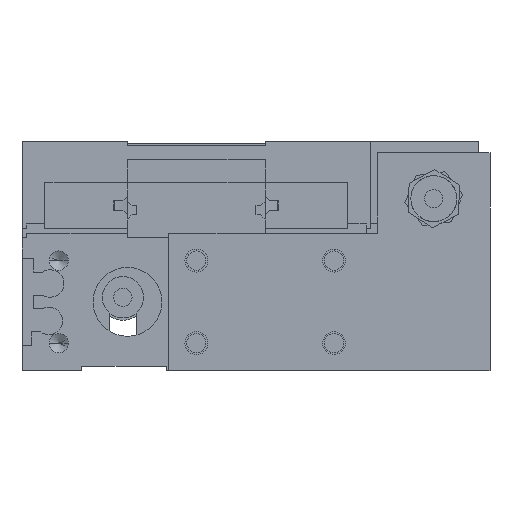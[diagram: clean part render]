
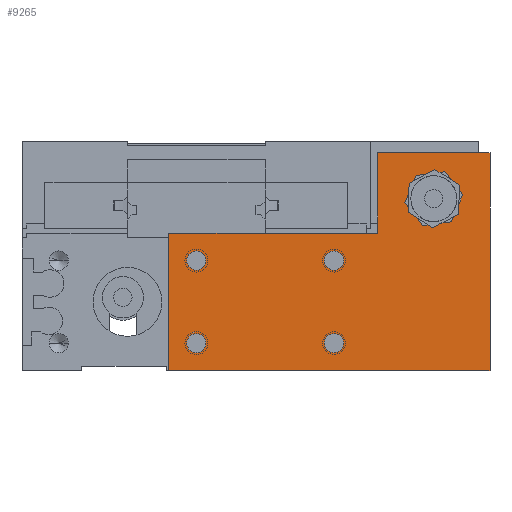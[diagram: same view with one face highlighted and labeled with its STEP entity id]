
A CAD part, front view. The second image highlights one B-rep face of the part: STEP entity #9265.
In plain terms, the highlighted planar face has unit normal (0, -1, 0) as drawn and (0, 0, 1) by its records, which use the part's own axes.
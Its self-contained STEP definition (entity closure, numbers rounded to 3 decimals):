
#9147 = VERTEX_POINT ( 'NONE', #14378 ) ;
#9154 = VERTEX_POINT ( 'NONE', #14367 ) ;
#9164 = VERTEX_POINT ( 'NONE', #14404 ) ;
#9183 = VERTEX_POINT ( 'NONE', #14409 ) ;
#9184 = VERTEX_POINT ( 'NONE', #14445 ) ;
#9194 = VERTEX_POINT ( 'NONE', #14387 ) ;
#9197 = VERTEX_POINT ( 'NONE', #14427 ) ;
#9200 = EDGE_CURVE ( 'NONE', #9154, #9218, #14479, .T. ) ;
#9206 = ORIENTED_EDGE ( 'NONE', *, *, #9324, .F. ) ;
#9210 = EDGE_CURVE ( 'NONE', #9164, #9147, #14471, .T. ) ;
#9218 = VERTEX_POINT ( 'NONE', #14511 ) ;
#9233 = VERTEX_POINT ( 'NONE', #14480 ) ;
#9236 = EDGE_CURVE ( 'NONE', #9254, #9258, #14482, .T. ) ;
#9244 = VERTEX_POINT ( 'NONE', #14524 ) ;
#9248 = EDGE_CURVE ( 'NONE', #9194, #9197, #14522, .T. ) ;
#9254 = VERTEX_POINT ( 'NONE', #14491 ) ;
#9258 = VERTEX_POINT ( 'NONE', #14578 ) ;
#9262 = EDGE_CURVE ( 'NONE', #9184, #9183, #14574, .T. ) ;
#9265 = ADVANCED_FACE ( 'NONE', ( #14562, #14565, #14547, #14546, #14558, #14566 ), #14555, .F. ) ;
#9274 = EDGE_CURVE ( 'NONE', #9283, #9281, #14591, .T. ) ;
#9277 = EDGE_CURVE ( 'NONE', #9233, #9292, #14655, .T. ) ;
#9281 = VERTEX_POINT ( 'NONE', #14656 ) ;
#9283 = VERTEX_POINT ( 'NONE', #14640 ) ;
#9286 = EDGE_LOOP ( 'NONE', ( #9206, #9327 ) ) ;
#9288 = EDGE_CURVE ( 'NONE', #9292, #9283, #14685, .T. ) ;
#9291 = EDGE_CURVE ( 'NONE', #9244, #9233, #14628, .T. ) ;
#9292 = VERTEX_POINT ( 'NONE', #14681 ) ;
#9305 = VERTEX_POINT ( 'NONE', #14669 ) ;
#9306 = EDGE_CURVE ( 'NONE', #9305, #9244, #14722, .T. ) ;
#9311 = ORIENTED_EDGE ( 'NONE', *, *, #9262, .F. ) ;
#9312 = EDGE_CURVE ( 'NONE', #9197, #9194, #14705, .T. ) ;
#9313 = EDGE_LOOP ( 'NONE', ( #9314, #9322, #9320, #10804, #9318, #9321 ) ) ;
#9314 = ORIENTED_EDGE ( 'NONE', *, *, #9306, .T. ) ;
#9315 = ORIENTED_EDGE ( 'NONE', *, *, #9248, .F. ) ;
#9316 = EDGE_CURVE ( 'NONE', #9258, #9254, #14711, .T. ) ;
#9318 = ORIENTED_EDGE ( 'NONE', *, *, #9274, .T. ) ;
#9320 = ORIENTED_EDGE ( 'NONE', *, *, #9277, .T. ) ;
#9321 = ORIENTED_EDGE ( 'NONE', *, *, #9342, .T. ) ;
#9322 = ORIENTED_EDGE ( 'NONE', *, *, #9291, .T. ) ;
#9324 = EDGE_CURVE ( 'NONE', #9147, #9164, #14700, .T. ) ;
#9325 = EDGE_LOOP ( 'NONE', ( #9336, #9311 ) ) ;
#9327 = ORIENTED_EDGE ( 'NONE', *, *, #9210, .F. ) ;
#9328 = EDGE_CURVE ( 'NONE', #9218, #9154, #14751, .T. ) ;
#9329 = EDGE_LOOP ( 'NONE', ( #9332, #9330 ) ) ;
#9330 = ORIENTED_EDGE ( 'NONE', *, *, #9200, .F. ) ;
#9332 = ORIENTED_EDGE ( 'NONE', *, *, #9328, .F. ) ;
#9333 = EDGE_LOOP ( 'NONE', ( #9334, #9315 ) ) ;
#9334 = ORIENTED_EDGE ( 'NONE', *, *, #9312, .F. ) ;
#9335 = EDGE_CURVE ( 'NONE', #9183, #9184, #14746, .T. ) ;
#9336 = ORIENTED_EDGE ( 'NONE', *, *, #9335, .F. ) ;
#9337 = EDGE_LOOP ( 'NONE', ( #9338, #9339 ) ) ;
#9338 = ORIENTED_EDGE ( 'NONE', *, *, #9316, .F. ) ;
#9339 = ORIENTED_EDGE ( 'NONE', *, *, #9236, .F. ) ;
#9342 = EDGE_CURVE ( 'NONE', #9281, #9305, #14695, .T. ) ;
#10804 = ORIENTED_EDGE ( 'NONE', *, *, #9288, .T. ) ;
#14367 = CARTESIAN_POINT ( 'NONE',  ( 33.9, 24., 12. ) ) ;
#14378 = CARTESIAN_POINT ( 'NONE',  ( 8.1, 24., 12. ) ) ;
#14387 = CARTESIAN_POINT ( 'NONE',  ( 33.9, 6., 12. ) ) ;
#14404 = CARTESIAN_POINT ( 'NONE',  ( 3.9, 24., 12. ) ) ;
#14409 = CARTESIAN_POINT ( 'NONE',  ( 8.1, 6., 12. ) ) ;
#14420 = CARTESIAN_POINT ( 'NONE',  ( 36., 24., 12. ) ) ;
#14427 = CARTESIAN_POINT ( 'NONE',  ( 38.1, 6., 12. ) ) ;
#14445 = CARTESIAN_POINT ( 'NONE',  ( 3.9, 6., 12. ) ) ;
#14461 = DIRECTION ( 'NONE',  ( 1., 0., 0. ) ) ;
#14462 = DIRECTION ( 'NONE',  ( 0., 0., 1. ) ) ;
#14463 = AXIS2_PLACEMENT_3D ( 'NONE', #14470, #14462, #14461 ) ;
#14470 = CARTESIAN_POINT ( 'NONE',  ( 6., 24., 12. ) ) ;
#14471 = CIRCLE ( 'NONE', #14463, 2.1 ) ;
#14476 = DIRECTION ( 'NONE',  ( 1., 0., 0. ) ) ;
#14477 = DIRECTION ( 'NONE',  ( 0., 0., 1. ) ) ;
#14478 = AXIS2_PLACEMENT_3D ( 'NONE', #14420, #14477, #14476 ) ;
#14479 = CIRCLE ( 'NONE', #14478, 2.1 ) ;
#14480 = CARTESIAN_POINT ( 'NONE',  ( 70., 0., 12. ) ) ;
#14482 = CIRCLE ( 'NONE', #14544, 5. ) ;
#14491 = CARTESIAN_POINT ( 'NONE',  ( 52.75, 37.5, 12. ) ) ;
#14511 = CARTESIAN_POINT ( 'NONE',  ( 38.1, 24., 12. ) ) ;
#14512 = DIRECTION ( 'NONE',  ( 1., 0., 0. ) ) ;
#14513 = DIRECTION ( 'NONE',  ( 0., 0., 1. ) ) ;
#14514 = CARTESIAN_POINT ( 'NONE',  ( 36., 6., 12. ) ) ;
#14522 = CIRCLE ( 'NONE', #14530, 2.1 ) ;
#14524 = CARTESIAN_POINT ( 'NONE',  ( 0., 0., 12. ) ) ;
#14530 = AXIS2_PLACEMENT_3D ( 'NONE', #14514, #14513, #14512 ) ;
#14534 = DIRECTION ( 'NONE',  ( 1., 0., 0. ) ) ;
#14535 = DIRECTION ( 'NONE',  ( 0., 0., 1. ) ) ;
#14536 = DIRECTION ( 'NONE',  ( 0., 0., -1. ) ) ;
#14539 = CARTESIAN_POINT ( 'NONE',  ( 57.75, 37.5, 12. ) ) ;
#14544 = AXIS2_PLACEMENT_3D ( 'NONE', #14539, #14535, #14534 ) ;
#14546 = FACE_BOUND ( 'NONE', #9333, .T. ) ;
#14547 = FACE_BOUND ( 'NONE', #9325, .T. ) ;
#14548 = AXIS2_PLACEMENT_3D ( 'NONE', #14564, #14536, #14615 ) ;
#14555 = PLANE ( 'NONE',  #14548 ) ;
#14558 = FACE_BOUND ( 'NONE', #9337, .T. ) ;
#14559 = DIRECTION ( 'NONE',  ( 1., 0., 0. ) ) ;
#14560 = DIRECTION ( 'NONE',  ( 0., 0., 1. ) ) ;
#14561 = CARTESIAN_POINT ( 'NONE',  ( 6., 6., 12. ) ) ;
#14562 = FACE_BOUND ( 'NONE', #9286, .T. ) ;
#14564 = CARTESIAN_POINT ( 'NONE',  ( 0., 30., 12. ) ) ;
#14565 = FACE_BOUND ( 'NONE', #9329, .T. ) ;
#14566 = FACE_OUTER_BOUND ( 'NONE', #9313, .T. ) ;
#14574 = CIRCLE ( 'NONE', #14581, 2.1 ) ;
#14578 = CARTESIAN_POINT ( 'NONE',  ( 62.75, 37.5, 12. ) ) ;
#14581 = AXIS2_PLACEMENT_3D ( 'NONE', #14561, #14560, #14559 ) ;
#14587 = DIRECTION ( 'NONE',  ( 0., -1., 0. ) ) ;
#14588 = VECTOR ( 'NONE', #14587, 1000. ) ;
#14589 = CARTESIAN_POINT ( 'NONE',  ( 45.5, 47.5, 12. ) ) ;
#14591 = LINE ( 'NONE', #14589, #14588 ) ;
#14615 = DIRECTION ( 'NONE',  ( -1., 0., 0. ) ) ;
#14626 = CARTESIAN_POINT ( 'NONE',  ( 0., 0., 12. ) ) ;
#14628 = LINE ( 'NONE', #14626, #14680 ) ;
#14640 = CARTESIAN_POINT ( 'NONE',  ( 45.5, 47.5, 12. ) ) ;
#14652 = DIRECTION ( 'NONE',  ( 0., 1., 0. ) ) ;
#14653 = VECTOR ( 'NONE', #14652, 1000. ) ;
#14654 = CARTESIAN_POINT ( 'NONE',  ( 70., 0., 12. ) ) ;
#14655 = LINE ( 'NONE', #14654, #14653 ) ;
#14656 = CARTESIAN_POINT ( 'NONE',  ( 45.5, 30., 12. ) ) ;
#14669 = CARTESIAN_POINT ( 'NONE',  ( 0., 30., 12. ) ) ;
#14679 = DIRECTION ( 'NONE',  ( 1., 0., 0. ) ) ;
#14680 = VECTOR ( 'NONE', #14679, 1000. ) ;
#14681 = CARTESIAN_POINT ( 'NONE',  ( 70., 47.5, 12. ) ) ;
#14682 = DIRECTION ( 'NONE',  ( -1., 0., 0. ) ) ;
#14683 = VECTOR ( 'NONE', #14682, 1000. ) ;
#14684 = CARTESIAN_POINT ( 'NONE',  ( 70., 47.5, 12. ) ) ;
#14685 = LINE ( 'NONE', #14684, #14683 ) ;
#14689 = DIRECTION ( 'NONE',  ( 1., 0., 0. ) ) ;
#14690 = DIRECTION ( 'NONE',  ( 0., 0., 1. ) ) ;
#14691 = CARTESIAN_POINT ( 'NONE',  ( 6., 24., 12. ) ) ;
#14693 = AXIS2_PLACEMENT_3D ( 'NONE', #14691, #14690, #14689 ) ;
#14694 = CARTESIAN_POINT ( 'NONE',  ( 0., 30., 12. ) ) ;
#14695 = LINE ( 'NONE', #14694, #14753 ) ;
#14696 = DIRECTION ( 'NONE',  ( 1., 0., 0. ) ) ;
#14697 = DIRECTION ( 'NONE',  ( 0., 0., 1. ) ) ;
#14698 = CARTESIAN_POINT ( 'NONE',  ( 57.75, 37.5, 12. ) ) ;
#14699 = AXIS2_PLACEMENT_3D ( 'NONE', #14698, #14697, #14696 ) ;
#14700 = CIRCLE ( 'NONE', #14693, 2.1 ) ;
#14701 = DIRECTION ( 'NONE',  ( 1., 0., 0. ) ) ;
#14702 = DIRECTION ( 'NONE',  ( 0., 0., 1. ) ) ;
#14703 = CARTESIAN_POINT ( 'NONE',  ( 36., 6., 12. ) ) ;
#14704 = AXIS2_PLACEMENT_3D ( 'NONE', #14703, #14702, #14701 ) ;
#14705 = CIRCLE ( 'NONE', #14704, 2.1 ) ;
#14711 = CIRCLE ( 'NONE', #14699, 5. ) ;
#14719 = DIRECTION ( 'NONE',  ( 0., -1., 0. ) ) ;
#14720 = VECTOR ( 'NONE', #14719, 1000. ) ;
#14721 = CARTESIAN_POINT ( 'NONE',  ( 0., 0., 12. ) ) ;
#14722 = LINE ( 'NONE', #14721, #14720 ) ;
#14738 = DIRECTION ( 'NONE',  ( 1., 0., 0. ) ) ;
#14739 = DIRECTION ( 'NONE',  ( 0., 0., 1. ) ) ;
#14740 = CARTESIAN_POINT ( 'NONE',  ( 6., 6., 12. ) ) ;
#14741 = AXIS2_PLACEMENT_3D ( 'NONE', #14740, #14739, #14738 ) ;
#14746 = CIRCLE ( 'NONE', #14741, 2.1 ) ;
#14747 = DIRECTION ( 'NONE',  ( 1., 0., 0. ) ) ;
#14748 = DIRECTION ( 'NONE',  ( 0., 0., 1. ) ) ;
#14749 = CARTESIAN_POINT ( 'NONE',  ( 36., 24., 12. ) ) ;
#14750 = AXIS2_PLACEMENT_3D ( 'NONE', #14749, #14748, #14747 ) ;
#14751 = CIRCLE ( 'NONE', #14750, 2.1 ) ;
#14752 = DIRECTION ( 'NONE',  ( -1., 0., 0. ) ) ;
#14753 = VECTOR ( 'NONE', #14752, 1000. ) ;
